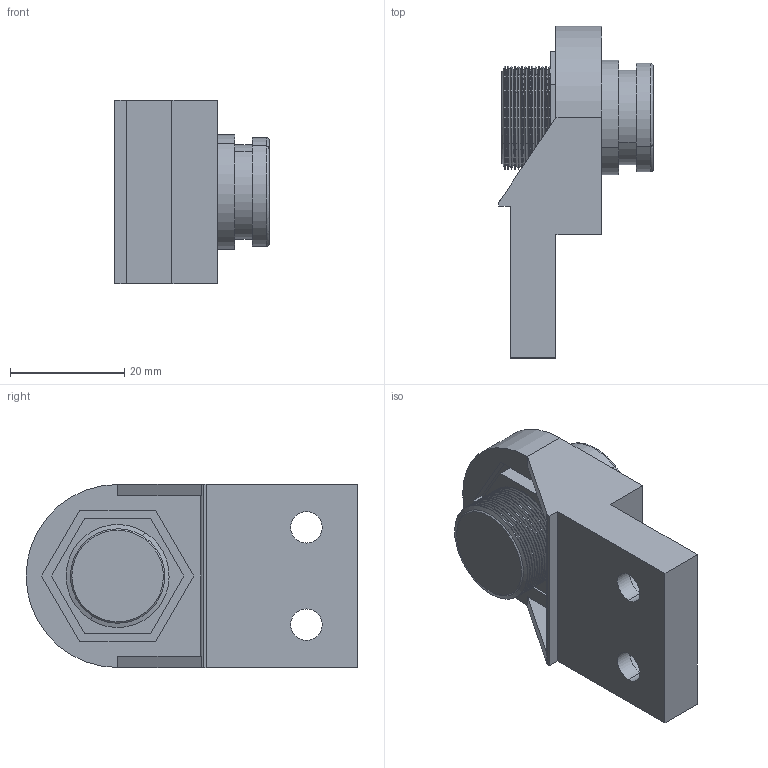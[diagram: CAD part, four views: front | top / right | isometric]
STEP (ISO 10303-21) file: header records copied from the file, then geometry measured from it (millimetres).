
FILE_DESCRIPTION (( 'STEP AP203' ), '1' );
FILE_NAME ('1.48.21.0008-battente-magnetico-nichel-Milper.STEP', '2019-05-03T06:22:20', ( '' ), ( '' ), 'SwSTEP 2.0', 'SolidWorks 2019', '' );
FILE_SCHEMA (( 'CONFIG_CONTROL_DESIGN' ));
Length unit declared in the file: millimetre
Products named in the file (1): 1.48.21.0008-battente-magnetico-nichel-Milper
Bounding box: 27 x 58 x 32 mm (x, y, z)
Volume: 19256.7 mm3; surface area: 10377.7 mm2
Topology: 3 solids, 3 shells, 217 faces, 507 edges, 304 vertices
Faces by surface type: cone 102, cylinder 72, plane 41, bspline 2
Entity records: 6290 total; most frequent: DIRECTION 1191, CARTESIAN_POINT 1065, ORIENTED_EDGE 1014, EDGE_CURVE 507, AXIS2_PLACEMENT_3D 470, VERTEX_POINT 304, CIRCLE 254, LINE 251
